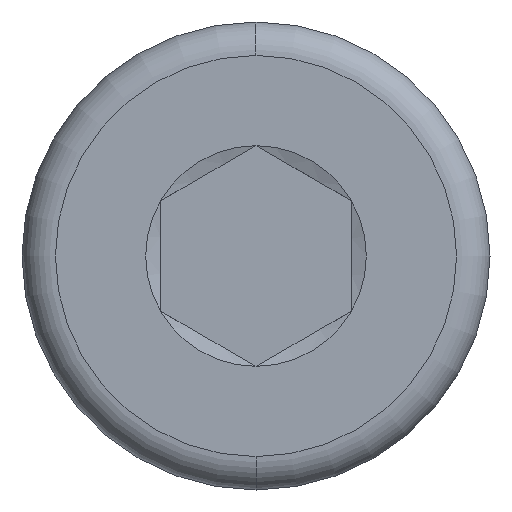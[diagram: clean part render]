
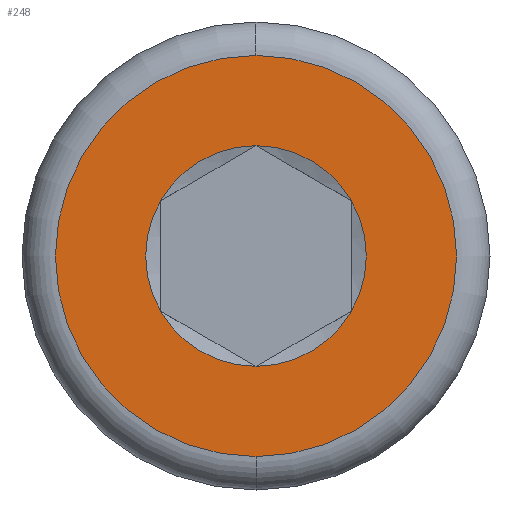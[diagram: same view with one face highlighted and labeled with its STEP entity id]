
A CAD part, left-side view. The second image highlights one B-rep face of the part: STEP entity #248.
In plain terms, the highlighted planar face has unit normal (-1, 0, 0).
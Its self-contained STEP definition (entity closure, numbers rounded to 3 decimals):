
#9 = CARTESIAN_POINT ( 'NONE',  ( 0., 0., 0. ) ) ;
#10 = ORIENTED_EDGE ( 'NONE', *, *, #320, .T. ) ;
#18 = CIRCLE ( 'NONE', #349, 2.309 ) ;
#21 = CARTESIAN_POINT ( 'NONE',  ( 0., 0., 0. ) ) ;
#23 = DIRECTION ( 'NONE',  ( 0., 0., -1. ) ) ;
#25 = CARTESIAN_POINT ( 'NONE',  ( 0., 2., -1.155 ) ) ;
#30 = CARTESIAN_POINT ( 'NONE',  ( 0., 0., 0. ) ) ;
#32 = CIRCLE ( 'NONE', #408, 4.2 ) ;
#36 = DIRECTION ( 'NONE',  ( 1., 0., 0. ) ) ;
#40 = DIRECTION ( 'NONE',  ( -1., 0., 0. ) ) ;
#45 = CARTESIAN_POINT ( 'NONE',  ( 0., 0., -4.2 ) ) ;
#46 = VERTEX_POINT ( 'NONE', #25 ) ;
#51 = EDGE_CURVE ( 'NONE', #46, #220, #559, .T. ) ;
#68 = VERTEX_POINT ( 'NONE', #291 ) ;
#73 = CARTESIAN_POINT ( 'NONE',  ( 0., 0., 2.309 ) ) ;
#79 = CARTESIAN_POINT ( 'NONE',  ( 0., -2., -1.155 ) ) ;
#83 = EDGE_CURVE ( 'NONE', #220, #510, #18, .T. ) ;
#87 = AXIS2_PLACEMENT_3D ( 'NONE', #236, #499, #501 ) ;
#90 = ORIENTED_EDGE ( 'NONE', *, *, #497, .T. ) ;
#109 = ORIENTED_EDGE ( 'NONE', *, *, #129, .T. ) ;
#121 = ORIENTED_EDGE ( 'NONE', *, *, #214, .T. ) ;
#124 = VERTEX_POINT ( 'NONE', #79 ) ;
#129 = EDGE_CURVE ( 'NONE', #68, #124, #137, .T. ) ;
#137 = CIRCLE ( 'NONE', #664, 2.309 ) ;
#148 = FACE_OUTER_BOUND ( 'NONE', #227, .T. ) ;
#152 = VERTEX_POINT ( 'NONE', #563 ) ;
#153 = DIRECTION ( 'NONE',  ( 0., 0., 1. ) ) ;
#162 = CARTESIAN_POINT ( 'NONE',  ( 0., 0., 4.2 ) ) ;
#174 = DIRECTION ( 'NONE',  ( 0., 0., -1. ) ) ;
#193 = DIRECTION ( 'NONE',  ( 0., 0., -1. ) ) ;
#203 = FACE_BOUND ( 'NONE', #544, .T. ) ;
#210 = VERTEX_POINT ( 'NONE', #45 ) ;
#214 = EDGE_CURVE ( 'NONE', #152, #46, #550, .T. ) ;
#215 = CARTESIAN_POINT ( 'NONE',  ( 0., 2., 1.155 ) ) ;
#220 = VERTEX_POINT ( 'NONE', #215 ) ;
#227 = EDGE_LOOP ( 'NONE', ( #448, #592 ) ) ;
#234 = DIRECTION ( 'NONE',  ( 0., 0., -1. ) ) ;
#236 = CARTESIAN_POINT ( 'NONE',  ( 0., 0., 0. ) ) ;
#248 = ADVANCED_FACE ( 'NONE', ( #203, #148 ), #367, .T. ) ;
#253 = CARTESIAN_POINT ( 'NONE',  ( 0., 0., 0. ) ) ;
#272 = DIRECTION ( 'NONE',  ( 1., 0., 0. ) ) ;
#284 = AXIS2_PLACEMENT_3D ( 'NONE', #399, #610, #353 ) ;
#291 = CARTESIAN_POINT ( 'NONE',  ( 0., -2., 1.155 ) ) ;
#320 = EDGE_CURVE ( 'NONE', #124, #152, #365, .T. ) ;
#335 = AXIS2_PLACEMENT_3D ( 'NONE', #598, #337, #23 ) ;
#337 = DIRECTION ( 'NONE',  ( 1., 0., 0. ) ) ;
#349 = AXIS2_PLACEMENT_3D ( 'NONE', #21, #647, #234 ) ;
#353 = DIRECTION ( 'NONE',  ( 0., 0., -1. ) ) ;
#365 = CIRCLE ( 'NONE', #432, 2.309 ) ;
#367 = PLANE ( 'NONE',  #571 ) ;
#392 = CIRCLE ( 'NONE', #87, 4.2 ) ;
#399 = CARTESIAN_POINT ( 'NONE',  ( 0., 0., 0. ) ) ;
#408 = AXIS2_PLACEMENT_3D ( 'NONE', #643, #272, #174 ) ;
#431 = ORIENTED_EDGE ( 'NONE', *, *, #83, .T. ) ;
#432 = AXIS2_PLACEMENT_3D ( 'NONE', #9, #494, #541 ) ;
#435 = EDGE_CURVE ( 'NONE', #442, #210, #32, .T. ) ;
#442 = VERTEX_POINT ( 'NONE', #162 ) ;
#448 = ORIENTED_EDGE ( 'NONE', *, *, #532, .F. ) ;
#458 = DIRECTION ( 'NONE',  ( 1., 0., 0. ) ) ;
#494 = DIRECTION ( 'NONE',  ( 1., 0., 0. ) ) ;
#497 = EDGE_CURVE ( 'NONE', #510, #68, #640, .T. ) ;
#499 = DIRECTION ( 'NONE',  ( 1., 0., 0. ) ) ;
#501 = DIRECTION ( 'NONE',  ( 0., 0., -1. ) ) ;
#510 = VERTEX_POINT ( 'NONE', #73 ) ;
#523 = CARTESIAN_POINT ( 'NONE',  ( 0., 0., 0. ) ) ;
#532 = EDGE_CURVE ( 'NONE', #210, #442, #392, .T. ) ;
#541 = DIRECTION ( 'NONE',  ( 0., 0., -1. ) ) ;
#544 = EDGE_LOOP ( 'NONE', ( #431, #90, #109, #10, #121, #633 ) ) ;
#550 = CIRCLE ( 'NONE', #634, 2.309 ) ;
#559 = CIRCLE ( 'NONE', #284, 2.309 ) ;
#563 = CARTESIAN_POINT ( 'NONE',  ( 0., 0., -2.309 ) ) ;
#571 = AXIS2_PLACEMENT_3D ( 'NONE', #523, #40, #153 ) ;
#592 = ORIENTED_EDGE ( 'NONE', *, *, #435, .F. ) ;
#598 = CARTESIAN_POINT ( 'NONE',  ( 0., 0., 0. ) ) ;
#610 = DIRECTION ( 'NONE',  ( 1., 0., 0. ) ) ;
#633 = ORIENTED_EDGE ( 'NONE', *, *, #51, .T. ) ;
#634 = AXIS2_PLACEMENT_3D ( 'NONE', #253, #36, #665 ) ;
#640 = CIRCLE ( 'NONE', #335, 2.309 ) ;
#643 = CARTESIAN_POINT ( 'NONE',  ( 0., 0., 0. ) ) ;
#647 = DIRECTION ( 'NONE',  ( 1., 0., 0. ) ) ;
#664 = AXIS2_PLACEMENT_3D ( 'NONE', #30, #458, #193 ) ;
#665 = DIRECTION ( 'NONE',  ( 0., 0., -1. ) ) ;
